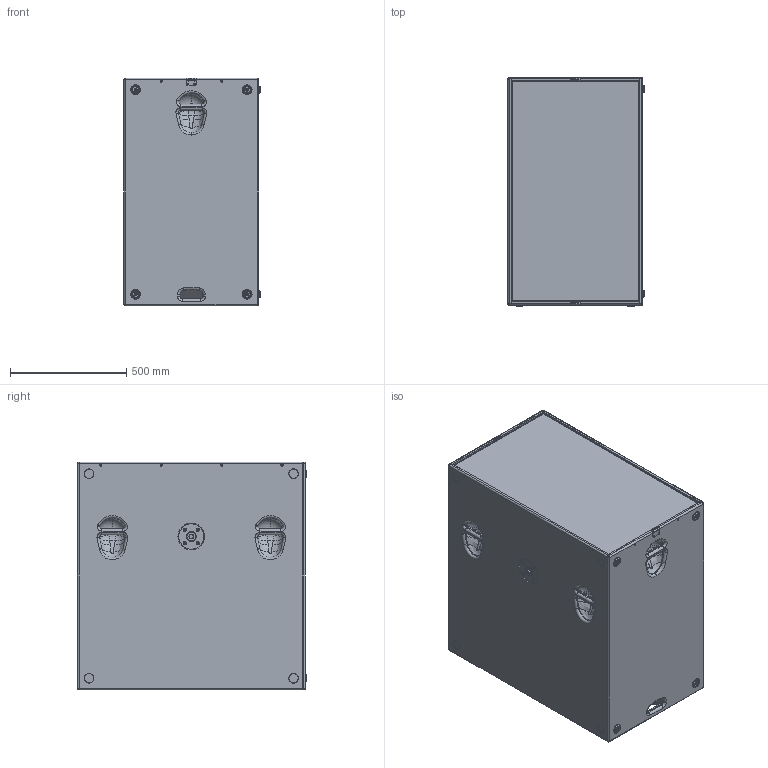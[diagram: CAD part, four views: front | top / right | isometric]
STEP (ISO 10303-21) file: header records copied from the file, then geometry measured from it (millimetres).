
FILE_DESCRIPTION (( 'STEP AP203' ), '1' );
FILE_NAME ('PSX.STEP', '2021-07-06T10:53:51', ( '' ), ( '' ), 'SwSTEP 2.0', 'SolidWorks 2009', '' );
FILE_SCHEMA (( 'CONFIG_CONTROL_DESIGN' ));
Length unit declared in the file: millimetre
Products named in the file (27): PSX; PSX221v1 Deckel; PSX221v1 Seite L; PSX221v1 Boden; PSX221v1 Seite R; PSX221v1 Rueckwand; PSX221v1 Griffverkleidung; PSX221v1 ASF Traeger; PSX221v1 Griffdoppel; ASF Sub 2018 passiv; Socket Countersunk Head Screw_ISO_ISO 10642 - M3 x 10 --- 10N; Socket Button Head Screw_ISO_ISO 7380 - M4 x 8 --- 8N; ASF Sub 2018 passiv komplett; SpeakOn NLT4MP; ASF Platine 3x NLT4MP; SpeakOn NLT4MP BAG; Baugruppe Platine 3x NLT4MP; Befestigungsöse; Seeburg EPDM Foot 38x10; Faston PCB Tab 6.3x0.8; Montageblech 3x NLT4MP; Hex Socket Head Screws_ISO_ISO 14586 - ST6.3 x 25-C-N; m20_flansch; Hex Socket Head Screws_ISO_ISO 14586 - ST2.9 x 13-C-N; Hex Socket Head Screws_ISO_ISO 14586 - ST4.8 x 13-C-N; Griffdeckel Aero Tropfen; PSX221 Frontgitter blank
Assembly tree (87 placements, depth 4):
  PSX
    PSX221v1 Griffverkleidung  x2
    Seeburg EPDM Foot 38x10  x8
    Griffdeckel Aero Tropfen  x6
    Hex Socket Head Screws_ISO_ISO 14586 - ST2.9 x 13-C-N  x8
    PSX221 Frontgitter blank
    PSX221v1 Griffdoppel  x6
    Hex Socket Head Screws_ISO_ISO 14586 - ST4.8 x 13-C-N  x8
    Hex Socket Head Screws_ISO_ISO 14586 - ST6.3 x 25-C-N  x8
    PSX221v1 Boden
    PSX221v1 Seite L
    ASF Sub 2018 passiv komplett
      Socket Countersunk Head Screw_ISO_ISO 10642 - M3 x 10 --- 10N  x12
      Socket Button Head Screw_ISO_ISO 7380 - M4 x 8 --- 8N  x8
      ASF Sub 2018 passiv
      Baugruppe Platine 3x NLT4MP
        Faston PCB Tab 6.3x0.8  x2
        SpeakOn NLT4MP BAG
        Montageblech 3x NLT4MP
        SpeakOn NLT4MP  x2
        ASF Platine 3x NLT4MP
    Befestigungsöse  x2
    PSX221v1 ASF Traeger
    PSX221v1 Rueckwand
    PSX221v1 Deckel
    m20_flansch  x2
    PSX221v1 Seite R
Bounding box: 585.5 x 985.5 x 980 mm (x, y, z)
Volume: 53817539.1 mm3; surface area: 9110712.5 mm2
Topology: 85 solids, 85 shells, 4196 faces, 10144 edges, 6157 vertices
Faces by surface type: plane 1786, cylinder 1299, cone 469, torus 326, bspline 268, sphere 48
Entity records: 78602 total; most frequent: CARTESIAN_POINT 19523, DIRECTION 11666, ORIENTED_EDGE 11166, EDGE_CURVE 5583, AXIS2_PLACEMENT_3D 4238, VERTEX_POINT 3547, VECTOR 3190, LINE 3190
